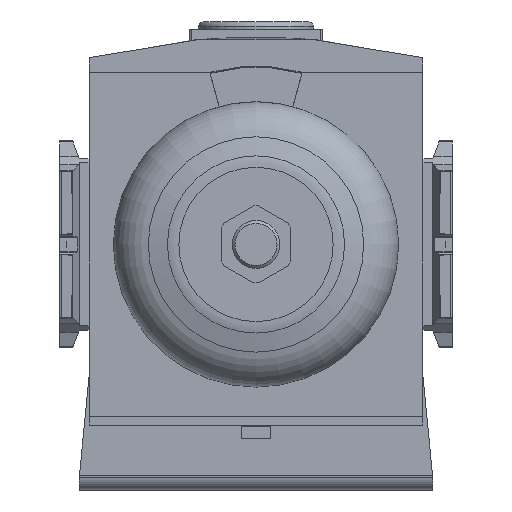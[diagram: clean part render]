
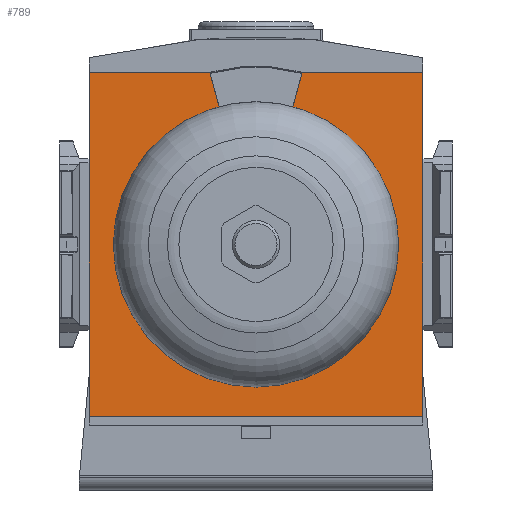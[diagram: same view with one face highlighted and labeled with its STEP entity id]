
A CAD part, front view. The second image highlights one B-rep face of the part: STEP entity #789.
In plain terms, the highlighted planar face has unit normal (0, -1, 0) as drawn and (0, 1, 0) by its records, which use the part's own axes.
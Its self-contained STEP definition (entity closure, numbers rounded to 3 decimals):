
#789 = ADVANCED_FACE( '', ( #1742, #1743 ), #1744, .T. );
#1742 = FACE_BOUND( '', #2864, .T. );
#1743 = FACE_OUTER_BOUND( '', #2865, .T. );
#1744 = PLANE( '', #2866 );
#2864 = EDGE_LOOP( '', ( #5144 ) );
#2865 = EDGE_LOOP( '', ( #5145, #5146, #5147, #5148 ) );
#2866 = AXIS2_PLACEMENT_3D( '', #5149, #5150, #5151 );
#5144 = ORIENTED_EDGE( '', *, *, #7558, .T. );
#5145 = ORIENTED_EDGE( '', *, *, #7384, .T. );
#5146 = ORIENTED_EDGE( '', *, *, #7559, .T. );
#5147 = ORIENTED_EDGE( '', *, *, #7560, .T. );
#5148 = ORIENTED_EDGE( '', *, *, #7561, .T. );
#5149 = CARTESIAN_POINT( '', ( 0., 35., 0. ) );
#5150 = DIRECTION( '', ( 0., 1., 0. ) );
#5151 = DIRECTION( '', ( 0., 0., 1. ) );
#7384 = EDGE_CURVE( '', #9158, #9156, #9159, .T. );
#7558 = EDGE_CURVE( '', #9392, #9392, #9393, .T. );
#7559 = EDGE_CURVE( '', #9156, #9348, #9394, .T. );
#7560 = EDGE_CURVE( '', #9348, #9395, #9396, .T. );
#7561 = EDGE_CURVE( '', #9395, #9158, #9397, .T. );
#9156 = VERTEX_POINT( '', #11548 );
#9158 = VERTEX_POINT( '', #11551 );
#9159 = LINE( '', #11552, #11553 );
#9348 = VERTEX_POINT( '', #11827 );
#9392 = VERTEX_POINT( '', #11886 );
#9393 = CIRCLE( '', #11887, 29.047 );
#9394 = LINE( '', #11888, #11889 );
#9395 = VERTEX_POINT( '', #11890 );
#9396 = LINE( '', #11891, #11892 );
#9397 = LINE( '', #11893, #11894 );
#11548 = CARTESIAN_POINT( '', ( -34., 35., 35. ) );
#11551 = CARTESIAN_POINT( '', ( -34., 35., -35. ) );
#11552 = CARTESIAN_POINT( '', ( -34., 35., -35. ) );
#11553 = VECTOR( '', #13282, 1000. );
#11827 = CARTESIAN_POINT( '', ( 33.995, 34.995, 35. ) );
#11886 = CARTESIAN_POINT( '', ( 0., 35., -29.047 ) );
#11887 = AXIS2_PLACEMENT_3D( '', #13452, #13453, #13454 );
#11888 = CARTESIAN_POINT( '', ( -34., 35., 35. ) );
#11889 = VECTOR( '', #13455, 1000. );
#11890 = CARTESIAN_POINT( '', ( 34., 35., -35. ) );
#11891 = CARTESIAN_POINT( '', ( 34., 35., 35. ) );
#11892 = VECTOR( '', #13456, 1000. );
#11893 = CARTESIAN_POINT( '', ( 34., 35., -35. ) );
#11894 = VECTOR( '', #13457, 1000. );
#13282 = DIRECTION( '', ( 0., 0., 1. ) );
#13452 = CARTESIAN_POINT( '', ( 0., 35., 0. ) );
#13453 = DIRECTION( '', ( 0., -1., 0. ) );
#13454 = DIRECTION( '', ( 0., 0., -1. ) );
#13455 = DIRECTION( '', ( 1., 0., 0. ) );
#13456 = DIRECTION( '', ( 0., 0., -1. ) );
#13457 = DIRECTION( '', ( -1., 0., 0. ) );
